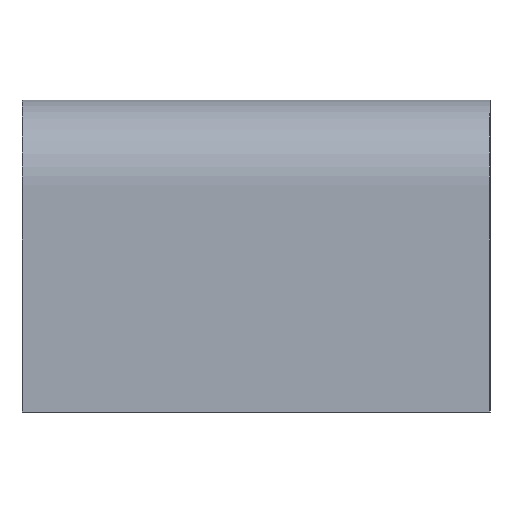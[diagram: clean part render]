
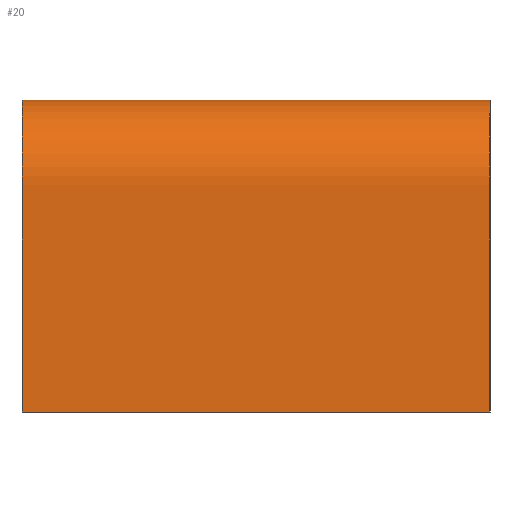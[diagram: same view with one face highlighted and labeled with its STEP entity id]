
A CAD part, left-side view. The second image highlights one B-rep face of the part: STEP entity #20.
In plain terms, the highlighted free-form (B-spline) face has degree [1, 2] with [2, 11] control points.
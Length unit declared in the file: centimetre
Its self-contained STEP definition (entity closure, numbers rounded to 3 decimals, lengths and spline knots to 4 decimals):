
#20=ADVANCED_FACE($,(#33),#155,.T.);
#33=FACE_OUTER_BOUND($,#46,.T.);
#46=EDGE_LOOP($,(#73,#74,#75,#76));
#73=ORIENTED_EDGE($,*,*,#114,.T.);
#74=ORIENTED_EDGE($,*,*,#121,.T.);
#75=ORIENTED_EDGE($,*,*,#118,.F.);
#76=ORIENTED_EDGE($,*,*,#122,.F.);
#114=EDGE_CURVE($,#140,#139,#187,.T.);
#118=EDGE_CURVE($,#144,#143,#189,.T.);
#121=EDGE_CURVE($,#139,#143,#173,.T.);
#122=EDGE_CURVE($,#140,#144,#174,.T.);
#139=VERTEX_POINT($,#421);
#140=VERTEX_POINT($,#422);
#143=VERTEX_POINT($,#425);
#144=VERTEX_POINT($,#426);
#155=(
BOUNDED_SURFACE()
B_SPLINE_SURFACE(1,2,((#385,#386,#387,#388,#389,#390,#391,#392,#393,#394,
#395),(#396,#397,#398,#399,#400,#401,#402,#403,#404,#405,#406)),.UNSPECIFIED.,
.F.,.F.,.F.)
B_SPLINE_SURFACE_WITH_KNOTS((2,2),(3,2,2,2,2,3),(0.,60.),(504.6726,
533.6726,550.9513,628.9513,646.2301,675.2301),
.UNSPECIFIED.)
GEOMETRIC_REPRESENTATION_ITEM()
RATIONAL_B_SPLINE_SURFACE(((1.,1.,1.,0.707,1.,1.,1.,0.707,
1.,1.,1.),(1.,1.,1.,0.707,1.,1.,1.,0.707,1.,1.,1.)))
REPRESENTATION_ITEM($)
SURFACE()
);
#173=B_SPLINE_CURVE_WITH_KNOTS($,1,(#362,#363),.UNSPECIFIED.,.F.,.F.,(2,
2),(0.,60.),.UNSPECIFIED.);
#174=B_SPLINE_CURVE_WITH_KNOTS($,1,(#364,#365),.UNSPECIFIED.,.F.,.F.,(2,
2),(0.,60.),.UNSPECIFIED.);
#187=(
BOUNDED_CURVE()
B_SPLINE_CURVE(2,(#325,#326,#327,#328,#329,#330,#331,#332,#333,#334,#335),
.UNSPECIFIED.,.F.,.F.)
B_SPLINE_CURVE_WITH_KNOTS((3,2,2,2,2,3),(-675.2301,-646.2301,
-628.9513,-550.9513,-533.6726,-504.6726),
.UNSPECIFIED.)
CURVE()
GEOMETRIC_REPRESENTATION_ITEM()
RATIONAL_B_SPLINE_CURVE((1.,1.,1.,0.707,1.,1.,1.,0.707,
1.,1.,1.))
REPRESENTATION_ITEM($)
);
#189=(
BOUNDED_CURVE()
B_SPLINE_CURVE(2,(#347,#348,#349,#350,#351,#352,#353,#354,#355,#356,#357),
.UNSPECIFIED.,.F.,.F.)
B_SPLINE_CURVE_WITH_KNOTS((3,2,2,2,2,3),(-675.2301,-646.2301,
-628.9513,-550.9513,-533.6726,-504.6726),
.UNSPECIFIED.)
CURVE()
GEOMETRIC_REPRESENTATION_ITEM()
RATIONAL_B_SPLINE_CURVE((1.,1.,1.,0.707,1.,1.,1.,0.707,
1.,1.,1.))
REPRESENTATION_ITEM($)
);
#325=CARTESIAN_POINT($,(0.,0.,0.));
#326=CARTESIAN_POINT($,(0.,0.,14.5));
#327=CARTESIAN_POINT($,(0.,0.,29.));
#328=CARTESIAN_POINT($,(0.,0.,40.));
#329=CARTESIAN_POINT($,(11.,0.,40.));
#330=CARTESIAN_POINT($,(50.,0.,40.));
#331=CARTESIAN_POINT($,(89.,0.,40.));
#332=CARTESIAN_POINT($,(100.,0.,40.));
#333=CARTESIAN_POINT($,(100.,0.,29.));
#334=CARTESIAN_POINT($,(100.,0.,14.5));
#335=CARTESIAN_POINT($,(100.,0.,0.));
#347=CARTESIAN_POINT($,(0.,60.,0.));
#348=CARTESIAN_POINT($,(0.,60.,14.5));
#349=CARTESIAN_POINT($,(0.,60.,29.));
#350=CARTESIAN_POINT($,(0.,60.,40.));
#351=CARTESIAN_POINT($,(11.,60.,40.));
#352=CARTESIAN_POINT($,(50.,60.,40.));
#353=CARTESIAN_POINT($,(89.,60.,40.));
#354=CARTESIAN_POINT($,(100.,60.,40.));
#355=CARTESIAN_POINT($,(100.,60.,29.));
#356=CARTESIAN_POINT($,(100.,60.,14.5));
#357=CARTESIAN_POINT($,(100.,60.,0.));
#362=CARTESIAN_POINT($,(100.,0.,0.));
#363=CARTESIAN_POINT($,(100.,60.,0.));
#364=CARTESIAN_POINT($,(0.,0.,0.));
#365=CARTESIAN_POINT($,(0.,60.,0.));
#385=CARTESIAN_POINT($,(100.,0.,0.));
#386=CARTESIAN_POINT($,(100.,0.,14.5));
#387=CARTESIAN_POINT($,(100.,0.,29.));
#388=CARTESIAN_POINT($,(100.,0.,40.));
#389=CARTESIAN_POINT($,(89.,0.,40.));
#390=CARTESIAN_POINT($,(50.,0.,40.));
#391=CARTESIAN_POINT($,(11.,0.,40.));
#392=CARTESIAN_POINT($,(0.,0.,40.));
#393=CARTESIAN_POINT($,(0.,0.,29.));
#394=CARTESIAN_POINT($,(0.,0.,14.5));
#395=CARTESIAN_POINT($,(0.,0.,0.));
#396=CARTESIAN_POINT($,(100.,60.,0.));
#397=CARTESIAN_POINT($,(100.,60.,14.5));
#398=CARTESIAN_POINT($,(100.,60.,29.));
#399=CARTESIAN_POINT($,(100.,60.,40.));
#400=CARTESIAN_POINT($,(89.,60.,40.));
#401=CARTESIAN_POINT($,(50.,60.,40.));
#402=CARTESIAN_POINT($,(11.,60.,40.));
#403=CARTESIAN_POINT($,(0.,60.,40.));
#404=CARTESIAN_POINT($,(0.,60.,29.));
#405=CARTESIAN_POINT($,(0.,60.,14.5));
#406=CARTESIAN_POINT($,(0.,60.,0.));
#421=CARTESIAN_POINT($,(100.,0.,0.));
#422=CARTESIAN_POINT($,(0.,0.,0.));
#425=CARTESIAN_POINT($,(100.,60.,0.));
#426=CARTESIAN_POINT($,(0.,60.,0.));
